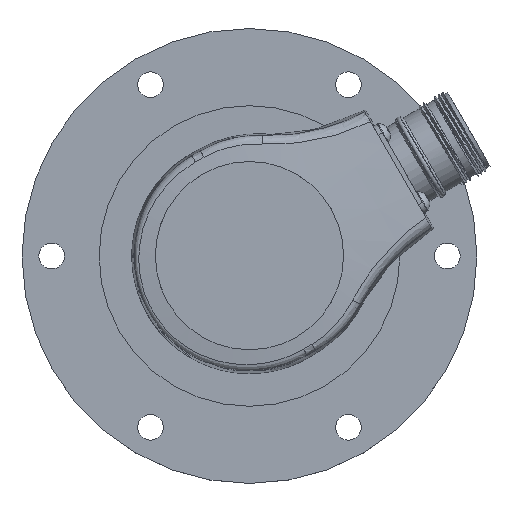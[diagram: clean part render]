
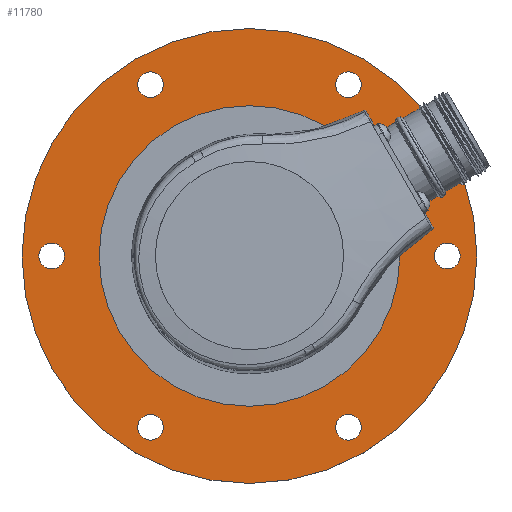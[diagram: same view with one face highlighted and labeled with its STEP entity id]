
A CAD part, top view. The second image highlights one B-rep face of the part: STEP entity #11780.
In plain terms, the highlighted planar face has unit normal (0, 0, 1).
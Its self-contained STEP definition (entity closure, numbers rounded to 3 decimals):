
#678=CIRCLE('',#12454,3.25);
#680=CIRCLE('',#12457,3.25);
#682=CIRCLE('',#12460,3.25);
#684=CIRCLE('',#12463,3.25);
#686=CIRCLE('',#12466,3.25);
#688=CIRCLE('',#12469,3.25);
#701=CIRCLE('',#12495,38.);
#703=CIRCLE('',#12498,57.5);
#1990=ORIENTED_EDGE('',*,*,#3439,.F.);
#1991=ORIENTED_EDGE('',*,*,#3447,.F.);
#1992=ORIENTED_EDGE('',*,*,#3464,.F.);
#1993=ORIENTED_EDGE('',*,*,#3462,.T.);
#1994=ORIENTED_EDGE('',*,*,#3449,.F.);
#1995=ORIENTED_EDGE('',*,*,#3445,.T.);
#1996=ORIENTED_EDGE('',*,*,#3443,.T.);
#1997=ORIENTED_EDGE('',*,*,#3441,.F.);
#3439=EDGE_CURVE('',#4286,#4286,#678,.T.);
#3441=EDGE_CURVE('',#4288,#4288,#680,.T.);
#3443=EDGE_CURVE('',#4290,#4290,#682,.T.);
#3445=EDGE_CURVE('',#4292,#4292,#684,.T.);
#3447=EDGE_CURVE('',#4294,#4294,#686,.T.);
#3449=EDGE_CURVE('',#4296,#4296,#688,.T.);
#3462=EDGE_CURVE('',#4309,#4309,#701,.T.);
#3464=EDGE_CURVE('',#4311,#4311,#703,.T.);
#4286=VERTEX_POINT('',#20331);
#4288=VERTEX_POINT('',#20336);
#4290=VERTEX_POINT('',#20341);
#4292=VERTEX_POINT('',#20346);
#4294=VERTEX_POINT('',#20351);
#4296=VERTEX_POINT('',#20356);
#4309=VERTEX_POINT('',#20395);
#4311=VERTEX_POINT('',#20400);
#5831=EDGE_LOOP('',(#1990));
#5832=EDGE_LOOP('',(#1991));
#5833=EDGE_LOOP('',(#1992));
#5834=EDGE_LOOP('',(#1993));
#5835=EDGE_LOOP('',(#1994));
#5836=EDGE_LOOP('',(#1995));
#5837=EDGE_LOOP('',(#1996));
#5838=EDGE_LOOP('',(#1997));
#6722=FACE_BOUND('',#5831,.T.);
#6723=FACE_BOUND('',#5832,.T.);
#6724=FACE_BOUND('',#5833,.T.);
#6725=FACE_BOUND('',#5834,.T.);
#6726=FACE_BOUND('',#5835,.T.);
#6727=FACE_BOUND('',#5836,.T.);
#6728=FACE_BOUND('',#5837,.T.);
#6729=FACE_BOUND('',#5838,.T.);
#7410=PLANE('',#12514);
#11780=ADVANCED_FACE('',(#6722,#6723,#6724,#6725,#6726,#6727,#6728,#6729),
#7410,.T.);
#12454=AXIS2_PLACEMENT_3D('',#20330,#13967,#13968);
#12457=AXIS2_PLACEMENT_3D('',#20335,#13973,#13974);
#12460=AXIS2_PLACEMENT_3D('',#20340,#13979,#13980);
#12463=AXIS2_PLACEMENT_3D('',#20345,#13985,#13986);
#12466=AXIS2_PLACEMENT_3D('',#20350,#13991,#13992);
#12469=AXIS2_PLACEMENT_3D('',#20355,#13997,#13998);
#12495=AXIS2_PLACEMENT_3D('',#20394,#14049,#14050);
#12498=AXIS2_PLACEMENT_3D('',#20399,#14055,#14056);
#12514=AXIS2_PLACEMENT_3D('',#20424,#14087,#14088);
#13967=DIRECTION('',(0.,0.,1.));
#13968=DIRECTION('',(-0.866,0.5,0.));
#13973=DIRECTION('',(0.,0.,1.));
#13974=DIRECTION('',(-0.866,0.5,0.));
#13979=DIRECTION('',(0.,0.,-1.));
#13980=DIRECTION('',(-0.866,0.5,0.));
#13985=DIRECTION('',(0.,0.,-1.));
#13986=DIRECTION('',(-0.866,0.5,0.));
#13991=DIRECTION('',(0.,0.,1.));
#13992=DIRECTION('',(-0.866,0.5,0.));
#13997=DIRECTION('',(0.,0.,1.));
#13998=DIRECTION('',(-0.866,0.5,0.));
#14049=DIRECTION('',(0.,0.,-1.));
#14050=DIRECTION('',(0.866,-0.5,0.));
#14055=DIRECTION('',(0.,0.,-1.));
#14056=DIRECTION('',(0.866,-0.5,0.));
#14087=DIRECTION('',(0.,0.,1.));
#14088=DIRECTION('',(-0.866,0.5,0.));
#20330=CARTESIAN_POINT('',(25.,43.301,-8.5));
#20331=CARTESIAN_POINT('',(22.185,44.926,-8.5));
#20335=CARTESIAN_POINT('',(25.,-43.301,-8.5));
#20336=CARTESIAN_POINT('',(22.185,-41.676,-8.5));
#20340=CARTESIAN_POINT('',(50.,0.,-8.5));
#20341=CARTESIAN_POINT('',(47.185,1.625,-8.5));
#20345=CARTESIAN_POINT('',(-50.,0.,-8.5));
#20346=CARTESIAN_POINT('',(-52.815,1.625,-8.5));
#20350=CARTESIAN_POINT('',(-25.,43.301,-8.5));
#20351=CARTESIAN_POINT('',(-27.815,44.926,-8.5));
#20355=CARTESIAN_POINT('',(-25.,-43.301,-8.5));
#20356=CARTESIAN_POINT('',(-27.815,-41.676,-8.5));
#20394=CARTESIAN_POINT('',(0.,0.,-8.5));
#20395=CARTESIAN_POINT('',(32.909,-19.,-8.5));
#20399=CARTESIAN_POINT('',(0.,0.,-8.5));
#20400=CARTESIAN_POINT('',(49.796,-28.75,-8.5));
#20424=CARTESIAN_POINT('',(49.796,-28.75,-8.5));
